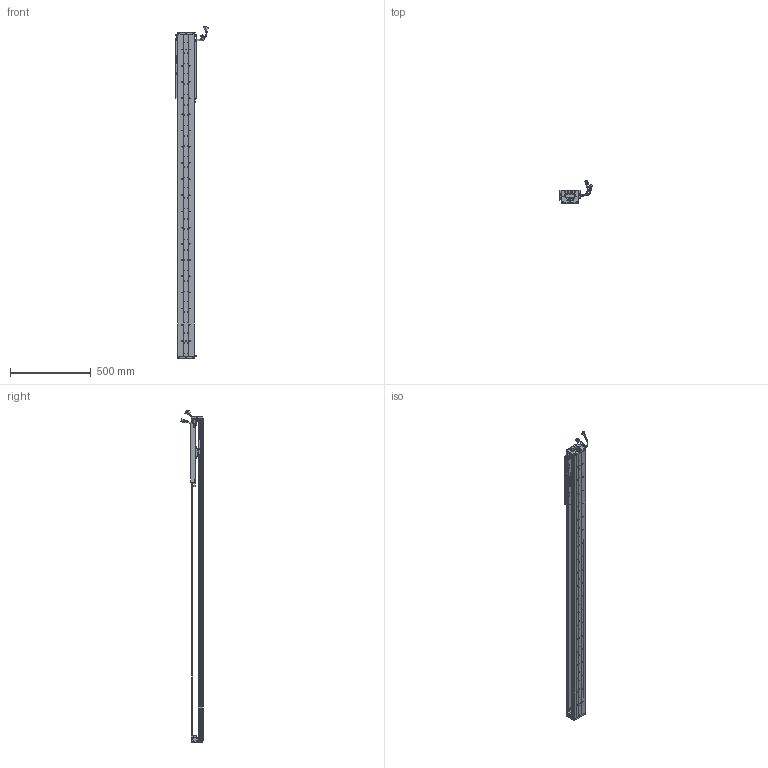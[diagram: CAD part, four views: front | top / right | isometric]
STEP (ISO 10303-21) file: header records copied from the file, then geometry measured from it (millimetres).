
FILE_DESCRIPTION (( 'STEP AP203' ), '1' );
FILE_NAME ('Z5-RY100D-1-L500-B-K.SLDASM_1550.step', '2021-05-17T03:33:42', ( '盈信电脑' ), ( '东莞市道滘镇水果街19号' ), 'SwSTEP 2.0', 'SolidWorks 2016', '' );
FILE_SCHEMA (( 'CONFIG_CONTROL_DESIGN' ));
Length unit declared in the file: millimetre
Products named in the file (36): Z-100詩湍傷裔啣; Z5-RY100D-1-L500-B-K.SLDASM_1550; COVER; PSLH080_PSLF2; SHIELDPLATE; Z5-RY100-L500詩湍90mm遵_1550; LABEL-Part-1; SCREW-M1.6-1; SCREW-M1.6; 140雄赽晤鎢ん堤盄; HARNESS-Part-1; 080黍杅芛假蚾釱21遴; SEAL-Part-1; 覜茼ん672; HARNESS-Part-2; HOLDER0; Z5-RY100D-500-倰第菁釱_1550; Z-RY100D覜茼んえ; HARNESS; Z5-RY100铝滑块（21款）; SCREW-M1.7; 100-Z-臏賑輸盄裔(21遴); SEAL; Z-RY100D詩湍奻揤裔; SCALE-Part-1; SCALE-Part-2; SCALE; SCREW-M1.6-2; Z-RY100D詩湍狟揤裔; PBU_SHEET; SCREW-M1.6-3; LABEL; 140蚥薯蝶輸; SCREW-M1.7-1; COVER-Part-1; 榋妏寠巭燃_暯_M2_2
Assembly tree (43 placements, depth 4):
  Z5-RY100D-1-L500-B-K.SLDASM_1550
    Z5-RY100D-500-倰第菁釱_1550
    Z5-RY100铝滑块（21款）
    PSLH080_PSLF2
      SCALE
        SCALE-Part-1
        SCALE-Part-2
      HARNESS
        HARNESS-Part-1
        HARNESS-Part-2
      LABEL
        LABEL-Part-1
      COVER
        COVER-Part-1
      SEAL
        SEAL-Part-1
      榋妏寠巭燃_暯_M2_2
      SHIELDPLATE
      SCREW-M1.7
      SCREW-M1.7-1
      PBU_SHEET
      SCREW-M1.6
      SCREW-M1.6-1
      SCREW-M1.6-2
      SCREW-M1.6-3
      HOLDER0
    080黍杅芛假蚾釱21遴
    Z-100詩湍傷裔啣  x2
    140蚥薯蝶輸  x2
    覜茼ん672  x3
    Z-RY100D覜茼んえ  x3
    100-Z-臏賑輸盄裔(21遴)
    140雄赽晤鎢ん堤盄
    Z5-RY100-L500詩湍90mm遵_1550
    Z-RY100D詩湍狟揤裔  x2
    Z-RY100D詩湍奻揤裔  x2
Bounding box: 205.84 x 136.11 x 2050.43 mm (x, y, z)
Volume: 4110392.6 mm3; surface area: 1570490.9 mm2
Topology: 38 solids, 38 shells, 2835 faces, 7615 edges, 4844 vertices
Faces by surface type: cylinder 1330, plane 1157, cone 226, torus 69, bspline 53
Entity records: 80077 total; most frequent: CARTESIAN_POINT 16787, DIRECTION 12837, ORIENTED_EDGE 12110, EDGE_CURVE 6055, AXIS2_PLACEMENT_3D 4790, VERTEX_POINT 3912, VECTOR 3257, LINE 3257
